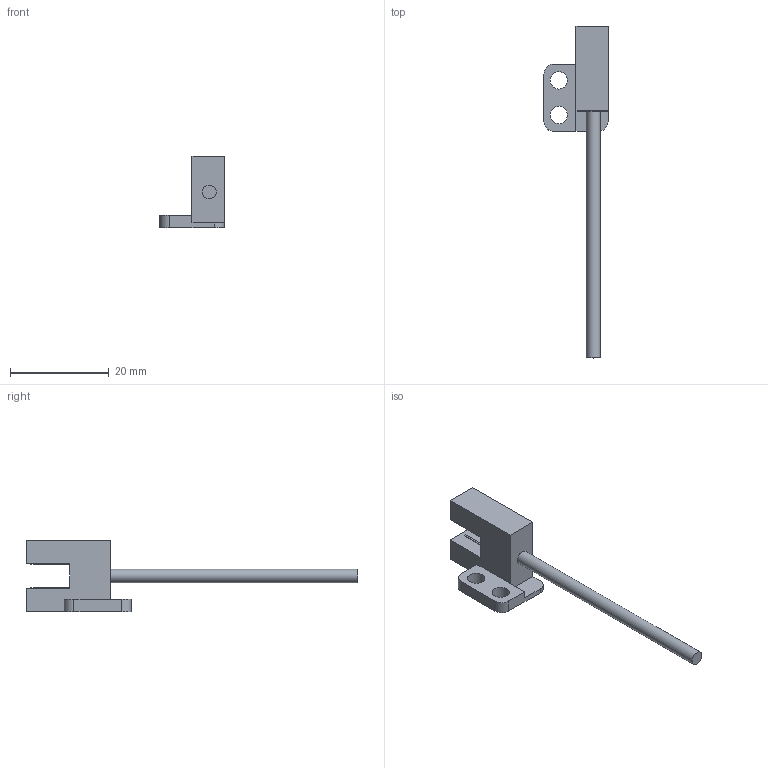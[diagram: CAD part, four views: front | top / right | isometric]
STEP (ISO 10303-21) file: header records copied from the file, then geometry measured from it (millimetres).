
FILE_DESCRIPTION(/* description */ (''),/* implementation_level */ '2;1');
FILE_NAME(/* name */ 'F:\HUAYIFENG\01)HUAYIFENG_宣传文件\01)HUAYIFENG_\X2\5BA34F2065874EF6\X0\_产品资料整合\03)产品3D文档\03)产品3D_槽型系列_K12_2019\03-03)LU45系列_3D\LU_F45.stp',/* time_stamp */ '2020-08-12T19:26:34+08:00',/* author */ ('fengjiarun'),/* organization */ (''),/* preprocessor_version */ 'ST-DEVELOPER v16.5',/* originating_system */ 'Autodesk Inventor 2017',/* authorisation */ '');
FILE_SCHEMA (('AUTOMOTIVE_DESIGN { 1 0 10303 214 3 1 1 }'));
Length unit declared in the file: millimetre
Products named in the file (1): 零件31
Bounding box: 13 x 67.2 x 14.5 mm (x, y, z)
Volume: 1838 mm3; surface area: 1670 mm2
Topology: 1 solids, 1 shells, 47 faces, 127 edges, 85 vertices
Faces by surface type: plane 41, cylinder 6
Full cylindrical faces by diameter (mm): 2.8 x1, 3.5 x2
Entity records: 1475 total; most frequent: CARTESIAN_POINT 253, ORIENTED_EDGE 244, DIRECTION 230, EDGE_CURVE 122, LINE 110, VECTOR 110, VERTEX_POINT 83, AXIS2_PLACEMENT_3D 60
